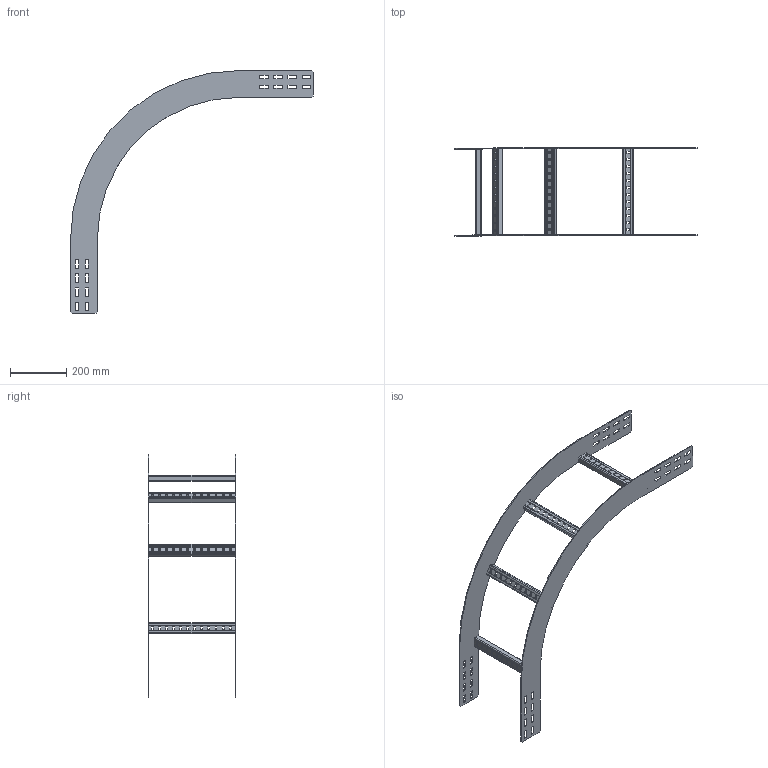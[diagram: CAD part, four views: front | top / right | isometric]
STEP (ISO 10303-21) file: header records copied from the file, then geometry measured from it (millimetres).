
FILE_DESCRIPTION(('Creo Elements/Direct Modeling STEP Export'),'2;1');
FILE_NAME('WPOR10-30-90-45.stp','2016-06-02T 9:29:42',(''),(''),'PTC Creo Elements/Direct Modeling STEP processor for AP214 (Solid Model)','PTC Creo Elements/Direct Modeling 19.0C 15-Aug-2015 (C) Parametric Technology GmbH','');
FILE_SCHEMA(('AUTOMOTIVE_DESIGN { 1 0 10303 214 1 1 1 1 }'));
Length unit declared in the file: millimetre
Products named in the file (3): WPIBG100_450.1; WPHBS30; WPOR10-30-90-45
Assembly tree (6 placements, depth 2):
  WPOR10-30-90-45
    WPHBS30  x4
    WPIBG100_450.1  x2
Bounding box: 860 x 311 x 860 mm (x, y, z)
Volume: 936983.2 mm3; surface area: 776913 mm2
Topology: 6 solids, 6 shells, 508 faces, 1488 edges, 992 vertices
Faces by surface type: plane 336, cylinder 172
Entity records: 5692 total; most frequent: CARTESIAN_POINT 982, ORIENTED_EDGE 972, DIRECTION 918, EDGE_CURVE 486, VECTOR 398, LINE 398, VERTEX_POINT 324, AXIS2_PLACEMENT_3D 260
